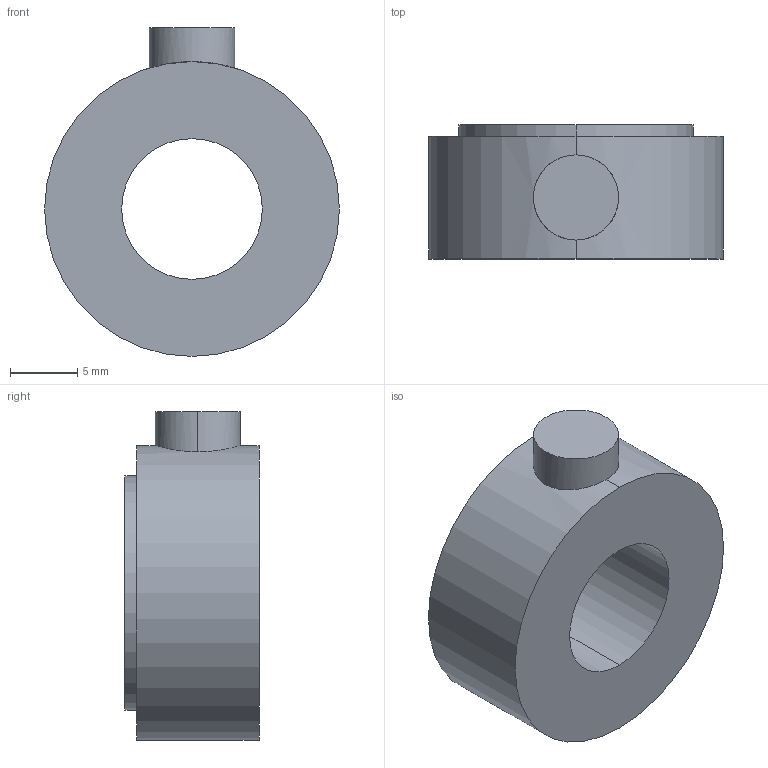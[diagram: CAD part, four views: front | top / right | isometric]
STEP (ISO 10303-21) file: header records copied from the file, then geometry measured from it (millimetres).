
FILE_DESCRIPTION (( 'STEP AP214' ), '1' );
FILE_NAME ('SS1108-1K.STEP', '2014-05-09T19:36:02', ( '' ), ( '' ), 'SwSTEP 2.0', 'SolidWorks 2008', '' );
FILE_SCHEMA (( 'AUTOMOTIVE_DESIGN' ));
Length unit declared in the file: inch
Products named in the file (1): SS1108-1K
Bounding box: 22 x 10.01 x 24.54 mm (x, y, z)
Volume: 2785.1 mm3; surface area: 1668.3 mm2
Topology: 1 solids, 1 shells, 15 faces, 33 edges, 22 vertices
Faces by surface type: cylinder 10, plane 5
Entity records: 514 total; most frequent: CARTESIAN_POINT 137, DIRECTION 79, ORIENTED_EDGE 66, AXIS2_PLACEMENT_3D 34, EDGE_CURVE 33, VERTEX_POINT 22, EDGE_LOOP 19, CIRCLE 18
